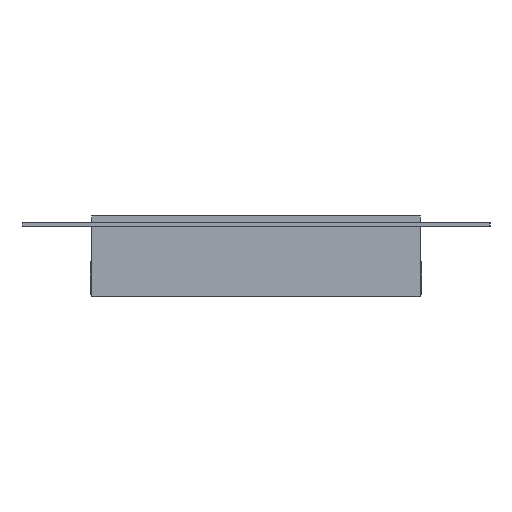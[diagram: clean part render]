
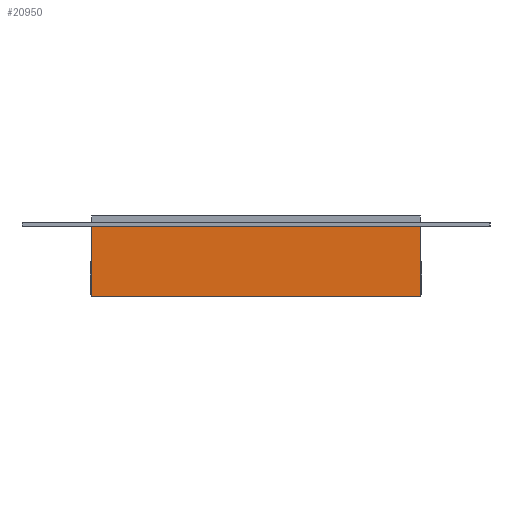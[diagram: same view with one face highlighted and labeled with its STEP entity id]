
A CAD part, left-side view. The second image highlights one B-rep face of the part: STEP entity #20950.
In plain terms, the highlighted planar face has unit normal (-1, 0, 0).
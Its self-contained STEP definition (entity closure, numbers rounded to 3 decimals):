
#4382=FACE_OUTER_BOUND('',#6212,.T.);
#6212=EDGE_LOOP('',(#19758,#19759,#19760,#19761));
#7440=LINE('',#36194,#8744);
#7449=LINE('',#36212,#8753);
#7514=LINE('',#36318,#8818);
#7519=LINE('',#36328,#8823);
#8744=VECTOR('',#30183,304.8);
#8753=VECTOR('',#30196,304.8);
#8818=VECTOR('',#30319,304.8);
#8823=VECTOR('',#30334,304.8);
#10796=VERTEX_POINT('',#36190);
#10798=VERTEX_POINT('',#36193);
#10803=VERTEX_POINT('',#36206);
#10805=VERTEX_POINT('',#36210);
#13724=EDGE_CURVE('',#10798,#10796,#7440,.T.);
#13733=EDGE_CURVE('',#10803,#10805,#7449,.T.);
#13798=EDGE_CURVE('',#10805,#10798,#7514,.T.);
#13803=EDGE_CURVE('',#10803,#10796,#7519,.T.);
#19758=ORIENTED_EDGE('',*,*,#13803,.F.);
#19759=ORIENTED_EDGE('',*,*,#13733,.T.);
#19760=ORIENTED_EDGE('',*,*,#13798,.T.);
#19761=ORIENTED_EDGE('',*,*,#13724,.T.);
#19943=PLANE('',#23648);
#20950=ADVANCED_FACE('',(#4382),#19943,.T.);
#23648=AXIS2_PLACEMENT_3D('',#36327,#30332,#30333);
#30183=DIRECTION('',(0.,0.,-1.));
#30196=DIRECTION('',(0.,0.,1.));
#30319=DIRECTION('',(0.,1.,0.));
#30332=DIRECTION('center_axis',(-1.,0.,0.));
#30333=DIRECTION('ref_axis',(0.,0.,-1.));
#30334=DIRECTION('',(0.,1.,0.));
#36190=CARTESIAN_POINT('',(-92.25,47.,-23.313));
#36193=CARTESIAN_POINT('',(-92.25,47.,-3.312));
#36194=CARTESIAN_POINT('',(-92.25,47.,-3.312));
#36206=CARTESIAN_POINT('',(-92.25,-47.,-23.313));
#36210=CARTESIAN_POINT('',(-92.25,-47.,-3.312));
#36212=CARTESIAN_POINT('',(-92.25,-47.,-23.313));
#36318=CARTESIAN_POINT('',(-92.25,-47.,-3.312));
#36327=CARTESIAN_POINT('Origin',(-92.25,47.,-0.313));
#36328=CARTESIAN_POINT('',(-92.25,-47.,-23.313));
